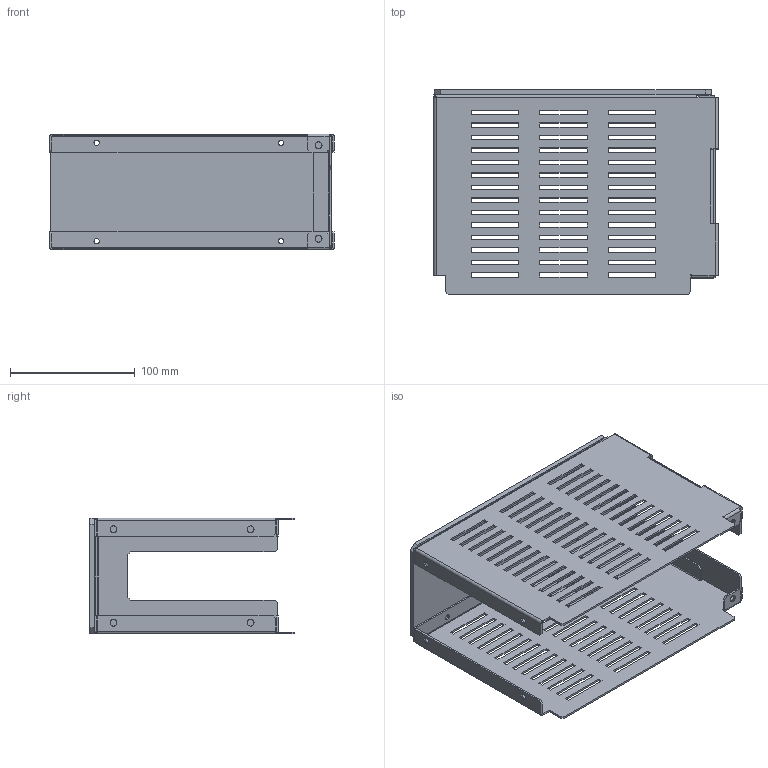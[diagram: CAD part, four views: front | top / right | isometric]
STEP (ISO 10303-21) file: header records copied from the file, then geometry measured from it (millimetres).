
FILE_DESCRIPTION(('CAx-IF Rec.Pracs.---Model Styling and Organization---1.2---2011-12-15','CAx-IF Rec.Pracs.---Geometric and Assembly Validation Properties---4.1---2014-06-16','CAx-IF Rec.Pracs.---PMI Polyline Presentation---2.0---2013-05-24'),'2;1');
FILE_NAME('R5M2W2MRB4.stp','2021-05-05T13:08:04+03:00',(''),(''),'STEP Interface 4.4 by CT CoreTechnologie','3D_Evolution4.4 by CT CoreTechnologie','');
FILE_SCHEMA(('AUTOMOTIVE_DESIGN { 1 0 10303 214 1 1 1 1 }'));
Length unit declared in the file: millimetre
Products named in the file (5): R5M2W2MRB4; RB.1462.00.00.0_-00; RB.1469.00.00.0_-00; RB.1469.00.00.0_-01; RB.1461.00.00.0_-00
Assembly tree (4 placements, depth 2):
  R5M2W2MRB4
    RB.1462.00.00.0_-00
    RB.1469.00.00.0_-00
    RB.1469.00.00.0_-01
    RB.1461.00.00.0_-00
Bounding box: 228 x 164 x 93 mm (x, y, z)
Surface area: 222834.1 mm2 (no closed solid volume)
Topology: 0 solids, 4 shells, 544 faces, 1553 edges, 1017 vertices
Faces by surface type: plane 488, cylinder 54, bspline 2
Entity records: 18069 total; most frequent: CARTESIAN_POINT 3211, ORIENTED_EDGE 3106, DIRECTION 2755, EDGE_CURVE 1553, VECTOR 1441, LINE 1441, VERTEX_POINT 1017, EDGE_LOOP 740
